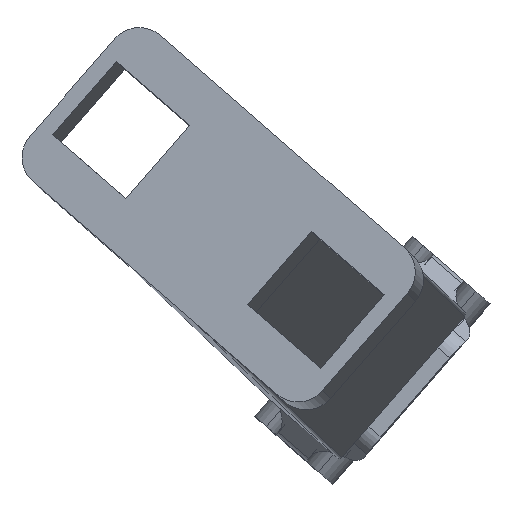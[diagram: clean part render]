
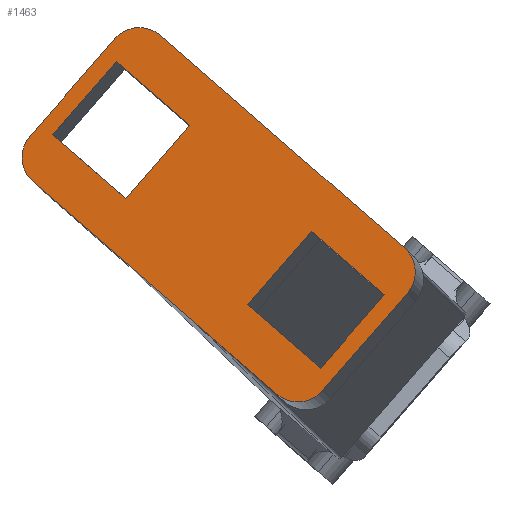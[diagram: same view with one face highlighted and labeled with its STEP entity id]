
A CAD part, top view. The second image highlights one B-rep face of the part: STEP entity #1463.
In plain terms, the highlighted planar face has unit normal (-0.036, 0.033, 0.999).
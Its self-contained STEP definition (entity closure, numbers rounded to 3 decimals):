
#4 = VERTEX_POINT ( 'NONE', #1836 ) ;
#12 = EDGE_CURVE ( 'NONE', #2493, #213, #645, .T. ) ;
#68 = DIRECTION ( 'NONE',  ( -0.036, 0.033, 0.999 ) ) ;
#80 = CARTESIAN_POINT ( 'NONE',  ( -47.028, 17.306, -174.416 ) ) ;
#108 = CIRCLE ( 'NONE', #737, 5. ) ;
#172 = DIRECTION ( 'NONE',  ( -0.036, 0.033, 0.999 ) ) ;
#179 = CARTESIAN_POINT ( 'NONE',  ( -90.05, 24.944, -176.228 ) ) ;
#189 = VECTOR ( 'NONE', #2287, 1000. ) ;
#197 = CARTESIAN_POINT ( 'NONE',  ( -32.206, 7.709, -173.565 ) ) ;
#213 = VERTEX_POINT ( 'NONE', #2597 ) ;
#224 = DIRECTION ( 'NONE',  ( 0.753, -0.656, 0.049 ) ) ;
#234 = EDGE_CURVE ( 'NONE', #213, #906, #420, .T. ) ;
#266 = ORIENTED_EDGE ( 'NONE', *, *, #12, .T. ) ;
#285 = ORIENTED_EDGE ( 'NONE', *, *, #2489, .F. ) ;
#286 = VECTOR ( 'NONE', #1415, 1000. ) ;
#344 = VECTOR ( 'NONE', #2978, 1000. ) ;
#395 = CARTESIAN_POINT ( 'NONE',  ( -77.394, 47.074, -176.49 ) ) ;
#404 = ORIENTED_EDGE ( 'NONE', *, *, #1631, .T. ) ;
#420 = CIRCLE ( 'NONE', #2162, 5. ) ;
#463 = DIRECTION ( 'NONE',  ( -0.988, -0.149, -0.031 ) ) ;
#468 = CARTESIAN_POINT ( 'NONE',  ( -45.585, -3.845, -173.674 ) ) ;
#472 = EDGE_CURVE ( 'NONE', #906, #2641, #1606, .T. ) ;
#485 = FACE_BOUND ( 'NONE', #2682, .T. ) ;
#513 = LINE ( 'NONE', #2639, #662 ) ;
#528 = DIRECTION ( 'NONE',  ( -0.753, 0.656, -0.049 ) ) ;
#533 = VECTOR ( 'NONE', #224, 1000. ) ;
#562 = VERTEX_POINT ( 'NONE', #1056 ) ;
#575 = CARTESIAN_POINT ( 'NONE',  ( -35.731, 7.465, -173.685 ) ) ;
#592 = ORIENTED_EDGE ( 'NONE', *, *, #2994, .F. ) ;
#603 = ORIENTED_EDGE ( 'NONE', *, *, #1111, .F. ) ;
#613 = CARTESIAN_POINT ( 'NONE',  ( -35.972, 10.99, -173.809 ) ) ;
#625 = DIRECTION ( 'NONE',  ( 0.752, -0.657, 0.049 ) ) ;
#626 = VECTOR ( 'NONE', #1715, 1000. ) ;
#632 = AXIS2_PLACEMENT_3D ( 'NONE', #2549, #910, #2782 ) ;
#645 = LINE ( 'NONE', #3035, #1178 ) ;
#649 = CARTESIAN_POINT ( 'NONE',  ( -56.881, 5.996, -174.405 ) ) ;
#660 = CARTESIAN_POINT ( 'NONE',  ( -90.05, 24.944, -176.228 ) ) ;
#662 = VECTOR ( 'NONE', #2587, 1000. ) ;
#700 = FACE_BOUND ( 'NONE', #2461, .T. ) ;
#701 = EDGE_CURVE ( 'NONE', #2359, #2752, #1182, .T. ) ;
#712 = EDGE_LOOP ( 'NONE', ( #2337, #1774, #1350, #404, #1927, #1563, #2007, #266 ) ) ;
#737 = AXIS2_PLACEMENT_3D ( 'NONE', #613, #1346, #625 ) ;
#752 = CARTESIAN_POINT ( 'NONE',  ( -32.688, 14.76, -173.812 ) ) ;
#771 = EDGE_CURVE ( 'NONE', #1180, #830, #1503, .T. ) ;
#830 = VERTEX_POINT ( 'NONE', #1051 ) ;
#890 = CARTESIAN_POINT ( 'NONE',  ( -90.531, 31.994, -176.476 ) ) ;
#893 = AXIS2_PLACEMENT_3D ( 'NONE', #1185, #1478, #463 ) ;
#906 = VERTEX_POINT ( 'NONE', #395 ) ;
#910 = DIRECTION ( 'NONE',  ( -0.036, 0.033, 0.999 ) ) ;
#930 = VERTEX_POINT ( 'NONE', #179 ) ;
#936 = CIRCLE ( 'NONE', #632, 5. ) ;
#991 = ORIENTED_EDGE ( 'NONE', *, *, #3081, .F. ) ;
#992 = DIRECTION ( 'NONE',  ( 0.753, -0.656, 0.049 ) ) ;
#1036 = EDGE_CURVE ( 'NONE', #1151, #2618, #1943, .T. ) ;
#1045 = LINE ( 'NONE', #80, #344 ) ;
#1051 = CARTESIAN_POINT ( 'NONE',  ( -47.028, 17.306, -174.416 ) ) ;
#1056 = CARTESIAN_POINT ( 'NONE',  ( -45.344, -7.371, -173.55 ) ) ;
#1111 = EDGE_CURVE ( 'NONE', #830, #2359, #1045, .T. ) ;
#1151 = VERTEX_POINT ( 'NONE', #1994 ) ;
#1178 = VECTOR ( 'NONE', #2585, 1000. ) ;
#1180 = VERTEX_POINT ( 'NONE', #1320 ) ;
#1182 = LINE ( 'NONE', #2817, #533 ) ;
#1185 = CARTESIAN_POINT ( 'NONE',  ( -73.628, 43.793, -176.247 ) ) ;
#1200 = EDGE_CURVE ( 'NONE', #1614, #2493, #108, .T. ) ;
#1266 = CIRCLE ( 'NONE', #2261, 5. ) ;
#1316 = CARTESIAN_POINT ( 'NONE',  ( -77.153, 43.549, -176.367 ) ) ;
#1320 = CARTESIAN_POINT ( 'NONE',  ( -35.731, 7.465, -173.685 ) ) ;
#1336 = CARTESIAN_POINT ( 'NONE',  ( -77.394, 47.074, -176.49 ) ) ;
#1346 = DIRECTION ( 'NONE',  ( -0.036, 0.033, 0.999 ) ) ;
#1350 = ORIENTED_EDGE ( 'NONE', *, *, #2963, .T. ) ;
#1366 = LINE ( 'NONE', #660, #1665 ) ;
#1383 = VERTEX_POINT ( 'NONE', #1316 ) ;
#1407 = VERTEX_POINT ( 'NONE', #2198 ) ;
#1408 = FACE_OUTER_BOUND ( 'NONE', #712, .T. ) ;
#1415 = DIRECTION ( 'NONE',  ( 0.657, 0.754, -0.001 ) ) ;
#1441 = CARTESIAN_POINT ( 'NONE',  ( -65.856, 33.707, -175.635 ) ) ;
#1463 = ADVANCED_FACE ( 'NONE', ( #700, #485, #1408 ), #2386, .T. ) ;
#1478 = DIRECTION ( 'NONE',  ( -0.036, 0.033, 0.999 ) ) ;
#1503 = LINE ( 'NONE', #575, #626 ) ;
#1563 = ORIENTED_EDGE ( 'NONE', *, *, #2822, .T. ) ;
#1605 = DIRECTION ( 'NONE',  ( 0.752, -0.657, 0.049 ) ) ;
#1606 = LINE ( 'NONE', #1336, #189 ) ;
#1614 = VERTEX_POINT ( 'NONE', #197 ) ;
#1631 = EDGE_CURVE ( 'NONE', #930, #4, #1366, .T. ) ;
#1645 = VECTOR ( 'NONE', #2605, 1000. ) ;
#1665 = VECTOR ( 'NONE', #1789, 1000. ) ;
#1694 = CARTESIAN_POINT ( 'NONE',  ( -73.628, 43.793, -176.247 ) ) ;
#1715 = DIRECTION ( 'NONE',  ( -0.753, 0.656, -0.049 ) ) ;
#1769 = VECTOR ( 'NONE', #528, 1000. ) ;
#1774 = ORIENTED_EDGE ( 'NONE', *, *, #472, .T. ) ;
#1789 = DIRECTION ( 'NONE',  ( 0.753, -0.656, 0.049 ) ) ;
#1836 = CARTESIAN_POINT ( 'NONE',  ( -52.394, -7.86, -173.79 ) ) ;
#1842 = CARTESIAN_POINT ( 'NONE',  ( -86.766, 28.714, -176.232 ) ) ;
#1927 = ORIENTED_EDGE ( 'NONE', *, *, #2328, .T. ) ;
#1943 = LINE ( 'NONE', #2685, #1973 ) ;
#1973 = VECTOR ( 'NONE', #992, 1000. ) ;
#1994 = CARTESIAN_POINT ( 'NONE',  ( -87.006, 32.239, -176.356 ) ) ;
#2007 = ORIENTED_EDGE ( 'NONE', *, *, #1200, .T. ) ;
#2038 = EDGE_CURVE ( 'NONE', #2752, #1180, #2345, .T. ) ;
#2146 = VECTOR ( 'NONE', #2325, 1000. ) ;
#2162 = AXIS2_PLACEMENT_3D ( 'NONE', #1694, #68, #2703 ) ;
#2198 = CARTESIAN_POINT ( 'NONE',  ( -65.856, 33.707, -175.635 ) ) ;
#2261 = AXIS2_PLACEMENT_3D ( 'NONE', #1842, #172, #1605 ) ;
#2287 = DIRECTION ( 'NONE',  ( -0.657, -0.754, 0.001 ) ) ;
#2311 = LINE ( 'NONE', #2588, #2146 ) ;
#2325 = DIRECTION ( 'NONE',  ( 0.657, 0.754, -0.001 ) ) ;
#2328 = EDGE_CURVE ( 'NONE', #4, #562, #936, .T. ) ;
#2337 = ORIENTED_EDGE ( 'NONE', *, *, #234, .T. ) ;
#2343 = LINE ( 'NONE', #2580, #1645 ) ;
#2345 = LINE ( 'NONE', #468, #286 ) ;
#2347 = ORIENTED_EDGE ( 'NONE', *, *, #1036, .F. ) ;
#2359 = VERTEX_POINT ( 'NONE', #649 ) ;
#2386 = PLANE ( 'NONE',  #893 ) ;
#2461 = EDGE_LOOP ( 'NONE', ( #2497, #603, #2893, #2636 ) ) ;
#2489 = EDGE_CURVE ( 'NONE', #1407, #1383, #2840, .T. ) ;
#2493 = VERTEX_POINT ( 'NONE', #752 ) ;
#2497 = ORIENTED_EDGE ( 'NONE', *, *, #701, .F. ) ;
#2544 = CARTESIAN_POINT ( 'NONE',  ( -75.709, 22.398, -175.624 ) ) ;
#2549 = CARTESIAN_POINT ( 'NONE',  ( -49.11, -4.09, -173.794 ) ) ;
#2580 = CARTESIAN_POINT ( 'NONE',  ( -77.153, 43.549, -176.367 ) ) ;
#2585 = DIRECTION ( 'NONE',  ( -0.753, 0.656, -0.049 ) ) ;
#2587 = DIRECTION ( 'NONE',  ( 0.657, 0.754, -0.001 ) ) ;
#2588 = CARTESIAN_POINT ( 'NONE',  ( -75.709, 22.398, -175.624 ) ) ;
#2597 = CARTESIAN_POINT ( 'NONE',  ( -70.344, 47.563, -176.25 ) ) ;
#2605 = DIRECTION ( 'NONE',  ( -0.657, -0.754, 0.001 ) ) ;
#2618 = VERTEX_POINT ( 'NONE', #2544 ) ;
#2636 = ORIENTED_EDGE ( 'NONE', *, *, #2038, .F. ) ;
#2639 = CARTESIAN_POINT ( 'NONE',  ( -45.344, -7.371, -173.55 ) ) ;
#2641 = VERTEX_POINT ( 'NONE', #890 ) ;
#2682 = EDGE_LOOP ( 'NONE', ( #592, #285, #991, #2347 ) ) ;
#2685 = CARTESIAN_POINT ( 'NONE',  ( -87.006, 32.239, -176.356 ) ) ;
#2703 = DIRECTION ( 'NONE',  ( 0.752, -0.657, 0.049 ) ) ;
#2752 = VERTEX_POINT ( 'NONE', #2902 ) ;
#2782 = DIRECTION ( 'NONE',  ( 0.752, -0.657, 0.049 ) ) ;
#2817 = CARTESIAN_POINT ( 'NONE',  ( -56.881, 5.996, -174.405 ) ) ;
#2822 = EDGE_CURVE ( 'NONE', #562, #1614, #513, .T. ) ;
#2840 = LINE ( 'NONE', #1441, #1769 ) ;
#2893 = ORIENTED_EDGE ( 'NONE', *, *, #771, .F. ) ;
#2902 = CARTESIAN_POINT ( 'NONE',  ( -45.585, -3.845, -173.674 ) ) ;
#2963 = EDGE_CURVE ( 'NONE', #2641, #930, #1266, .T. ) ;
#2978 = DIRECTION ( 'NONE',  ( -0.657, -0.754, 0.001 ) ) ;
#2994 = EDGE_CURVE ( 'NONE', #1383, #1151, #2343, .T. ) ;
#3035 = CARTESIAN_POINT ( 'NONE',  ( -32.688, 14.76, -173.812 ) ) ;
#3081 = EDGE_CURVE ( 'NONE', #2618, #1407, #2311, .T. ) ;
